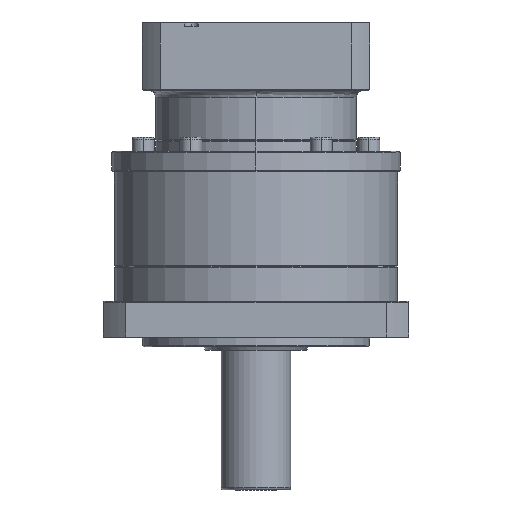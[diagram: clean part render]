
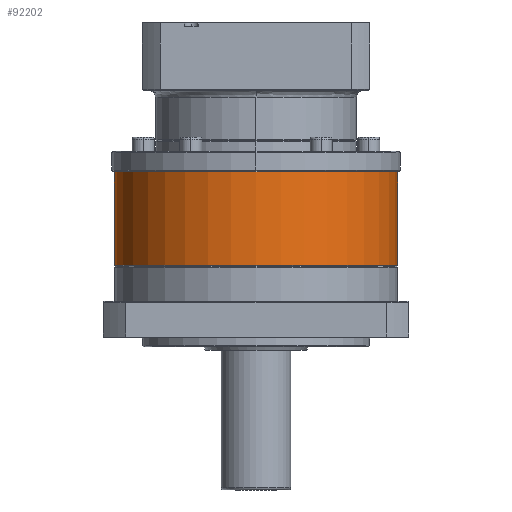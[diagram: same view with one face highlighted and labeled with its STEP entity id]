
A CAD part, left-side view. The second image highlights one B-rep face of the part: STEP entity #92202.
In plain terms, the highlighted cylindrical face has radius 81 mm (diameter 162 mm), a partial arc.
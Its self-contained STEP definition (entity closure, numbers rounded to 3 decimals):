
#226 = DIRECTION ( 'NONE',  ( 0., 0., 1. ) ) ;
#4343 = DIRECTION ( 'NONE',  ( 1., 0., 0. ) ) ;
#9274 = CARTESIAN_POINT ( 'NONE',  ( -156.048, -23.309, -155.489 ) ) ;
#9332 = DIRECTION ( 'NONE',  ( 1., 0., 0. ) ) ;
#9577 = CARTESIAN_POINT ( 'NONE',  ( -156.048, 138.691, -101.489 ) ) ;
#10022 = LINE ( 'NONE', #81153, #22335 ) ;
#10913 = VERTEX_POINT ( 'NONE', #28193 ) ;
#11978 = CARTESIAN_POINT ( 'NONE',  ( -156.048, 57.691, -101.989 ) ) ;
#14168 = VECTOR ( 'NONE', #90641, 1000. ) ;
#18906 = CIRCLE ( 'NONE', #99026, 81. ) ;
#19280 = CIRCLE ( 'NONE', #22504, 81. ) ;
#22335 = VECTOR ( 'NONE', #81904, 1000. ) ;
#22504 = AXIS2_PLACEMENT_3D ( 'NONE', #11978, #65223, #4343 ) ;
#28193 = CARTESIAN_POINT ( 'NONE',  ( -156.048, 138.691, -155.489 ) ) ;
#30591 = CARTESIAN_POINT ( 'NONE',  ( -156.048, -23.309, -101.989 ) ) ;
#31193 = VERTEX_POINT ( 'NONE', #76672 ) ;
#32584 = AXIS2_PLACEMENT_3D ( 'NONE', #46248, #54307, #106860 ) ;
#34333 = CYLINDRICAL_SURFACE ( 'NONE', #32584, 81. ) ;
#35370 = CARTESIAN_POINT ( 'NONE',  ( -156.048, 57.691, -101.989 ) ) ;
#37193 = FACE_OUTER_BOUND ( 'NONE', #41193, .T. ) ;
#38543 = DIRECTION ( 'NONE',  ( 0., 1., 0. ) ) ;
#41193 = EDGE_LOOP ( 'NONE', ( #55374, #50117, #109080, #65262, #99678 ) ) ;
#46248 = CARTESIAN_POINT ( 'NONE',  ( -156.048, 57.691, -101.489 ) ) ;
#47403 = CARTESIAN_POINT ( 'NONE',  ( -156.048, 57.691, -155.489 ) ) ;
#49509 = VERTEX_POINT ( 'NONE', #96697 ) ;
#50117 = ORIENTED_EDGE ( 'NONE', *, *, #76872, .F. ) ;
#52546 = LINE ( 'NONE', #9577, #14168 ) ;
#54307 = DIRECTION ( 'NONE',  ( 0., 0., -1. ) ) ;
#55374 = ORIENTED_EDGE ( 'NONE', *, *, #91184, .F. ) ;
#60387 = EDGE_CURVE ( 'NONE', #31193, #10913, #52546, .T. ) ;
#64090 = CIRCLE ( 'NONE', #91048, 81. ) ;
#65223 = DIRECTION ( 'NONE',  ( 0., 0., 1. ) ) ;
#65262 = ORIENTED_EDGE ( 'NONE', *, *, #60387, .T. ) ;
#66925 = EDGE_CURVE ( 'NONE', #31193, #49509, #19280, .T. ) ;
#76672 = CARTESIAN_POINT ( 'NONE',  ( -156.048, 138.691, -101.989 ) ) ;
#76742 = EDGE_CURVE ( 'NONE', #10913, #104091, #18906, .T. ) ;
#76872 = EDGE_CURVE ( 'NONE', #49509, #81346, #64090, .T. ) ;
#81153 = CARTESIAN_POINT ( 'NONE',  ( -156.048, -23.309, -101.489 ) ) ;
#81346 = VERTEX_POINT ( 'NONE', #30591 ) ;
#81904 = DIRECTION ( 'NONE',  ( 0., 0., -1. ) ) ;
#82056 = DIRECTION ( 'NONE',  ( 0., 0., 1. ) ) ;
#90641 = DIRECTION ( 'NONE',  ( 0., 0., -1. ) ) ;
#91048 = AXIS2_PLACEMENT_3D ( 'NONE', #35370, #226, #9332 ) ;
#91184 = EDGE_CURVE ( 'NONE', #81346, #104091, #10022, .T. ) ;
#92202 = ADVANCED_FACE ( 'NONE', ( #37193 ), #34333, .T. ) ;
#96697 = CARTESIAN_POINT ( 'NONE',  ( -237.048, 57.691, -101.989 ) ) ;
#99026 = AXIS2_PLACEMENT_3D ( 'NONE', #47403, #82056, #38543 ) ;
#99678 = ORIENTED_EDGE ( 'NONE', *, *, #76742, .T. ) ;
#104091 = VERTEX_POINT ( 'NONE', #9274 ) ;
#106860 = DIRECTION ( 'NONE',  ( 0., 1., 0. ) ) ;
#109080 = ORIENTED_EDGE ( 'NONE', *, *, #66925, .F. ) ;
